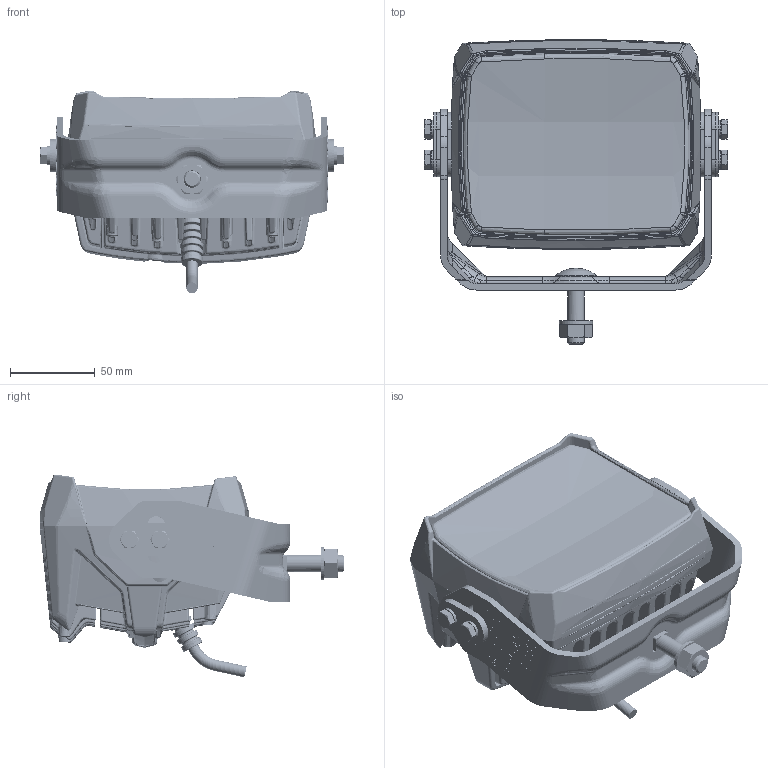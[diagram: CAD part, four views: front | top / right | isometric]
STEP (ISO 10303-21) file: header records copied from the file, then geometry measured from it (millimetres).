
FILE_DESCRIPTION(('CATIA V5 STEP Exchange','CAx-IF Rec.Pracs.--- Model Styling and Organization---1.5--- 2016-08-15','CAx-IF Rec.Pracs.---Supplemental Geometry---1.0---2011-11-01','CAx-IF Rec.Pracs.--- Composite Materials ---1.1---2010-07-15'),'2;1');
FILE_NAME('E:\tmp\ddx\2011218\HELLA_3D_data_RokLUME_380_N_1GA-996-197-01.stp','2022-01-18T07:23:42+00:00',('none'),('none'),'CATIA Version 5-6 Release 2020 SP3 HF9','CATIA V5 STEP AP214 Edition 3 v2','none');
FILE_SCHEMA(('AUTOMOTIVE_DESIGN { 1 0 10303 214 3 1 1 1 }'));
Products named in the file (1): 10001528970_D10_001
Bounding box: 179.4 x 180 x 119.7 mm (x, y, z)
Volume: 1005989.8 mm3; surface area: 215249.2 mm2
Topology: 3 solids, 8 shells, 6114 faces, 15047 edges, 8905 vertices
Faces by surface type: bspline 2239, plane 1250, extrusion 945, cylinder 935, cone 292, torus 281, sphere 162, revolution 10
Entity records: 304282 total; most frequent: CARTESIAN_POINT 191570, ORIENTED_EDGE 29618, EDGE_CURVE 14809, DIRECTION 11107, B_SPLINE_CURVE_WITH_KNOTS 9229, VERTEX_POINT 8905, EDGE_LOOP 6332, ADVANCED_FACE 6114
